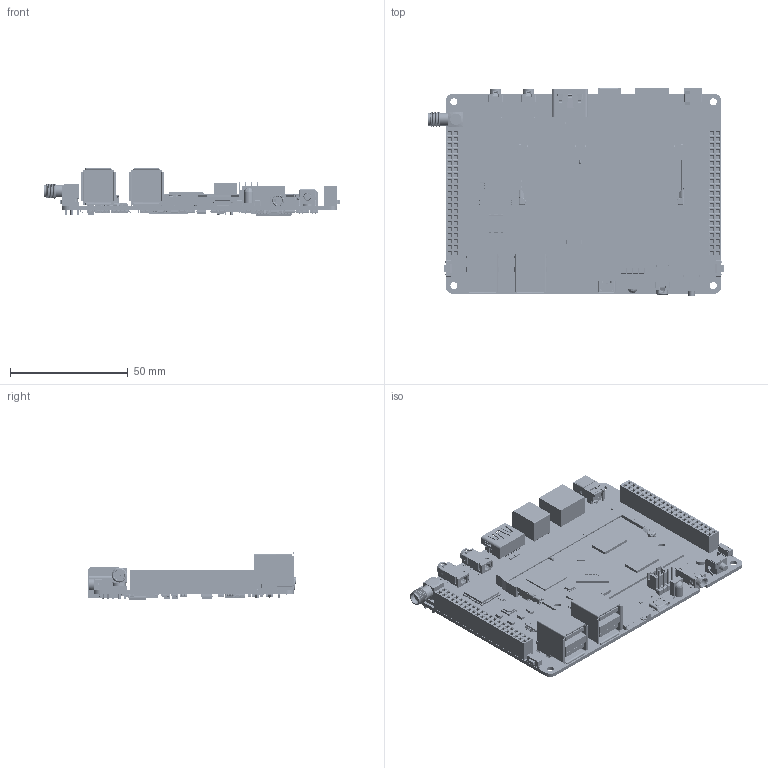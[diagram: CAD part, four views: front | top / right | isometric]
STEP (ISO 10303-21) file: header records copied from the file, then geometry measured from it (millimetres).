
FILE_DESCRIPTION(/* description */ (''),/* implementation_level */ '2;1');
FILE_NAME(/* name */ 'FirePrime_3D_model.stp',/* time_stamp */ '2018-03-19T14:12:50+08:00',/* author */ (''),/* organization */ (''),/* preprocessor_version */ 'ST-DEVELOPER v16',/* originating_system */ 'SIEMENS PLM Software NX 10.0',/* authorisation */ '');
FILE_SCHEMA (('AUTOMOTIVE_DESIGN { 1 0 10303 214 3 1 1 1 }'));
Products named in the file (1): FirePrime_3D_model
Bounding box: 125.21 x 88.56 x 20.4 mm (x, y, z)
Volume: 36342.4 mm3; surface area: 49833.7 mm2
Topology: 2 solids, 24 shells, 13092 faces, 39114 edges, 26237 vertices
Faces by surface type: plane 10046, cylinder 2606, bspline 226, extrusion 84, sphere 57, cone 43, torus 30
Full cylindrical faces by diameter (mm): 0.08 x4, 0.164 x2, 0.2 x1, 0.25 x1, 0.3 x1, 0.4 x1, 0.65 x4, 0.66 x1, 0.7 x4, 0.8 x1, 0.87 x4, 1 x3, 1.27 x1, 1.3 x8, 1.5 x1, 1.65 x1, 1.8 x1, 2.05 x1, 3 x6, 3.6 x3, 3.71 x1, 4.4 x1, 4.5 x1, 4.6 x2, 4.92 x1, 5 x3, 5.4 x2, 5.55 x1
Entity records: 494463 total; most frequent: CARTESIAN_POINT 110138, ORIENTED_EDGE 77804, DIRECTION 66532, EDGE_CURVE 38902, VECTOR 30314, LINE 30230, VERTEX_POINT 26163, AXIS2_PLACEMENT_3D 18109
